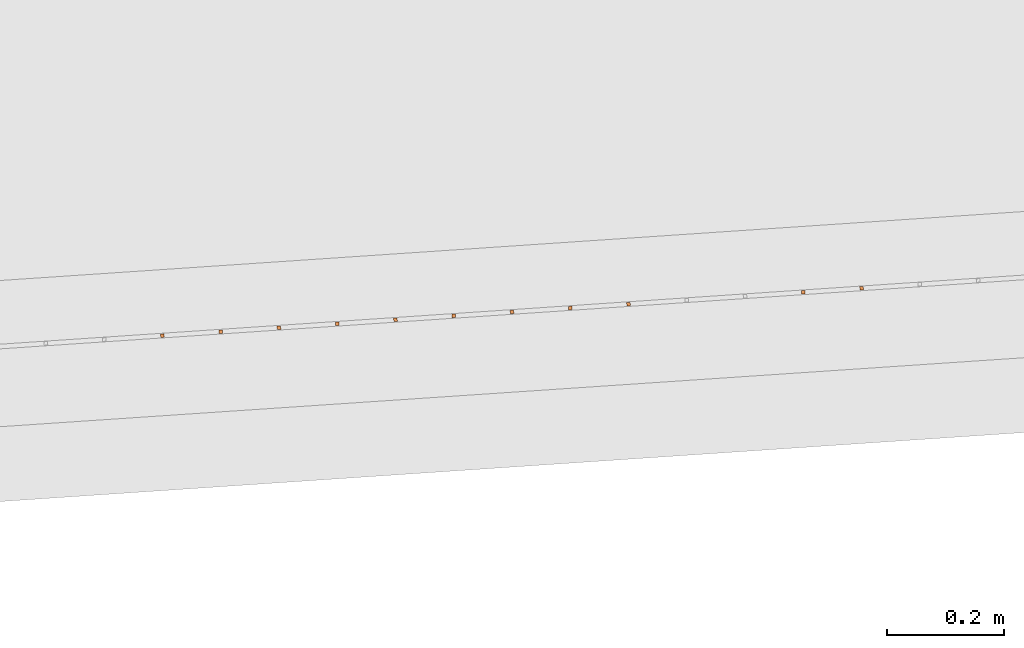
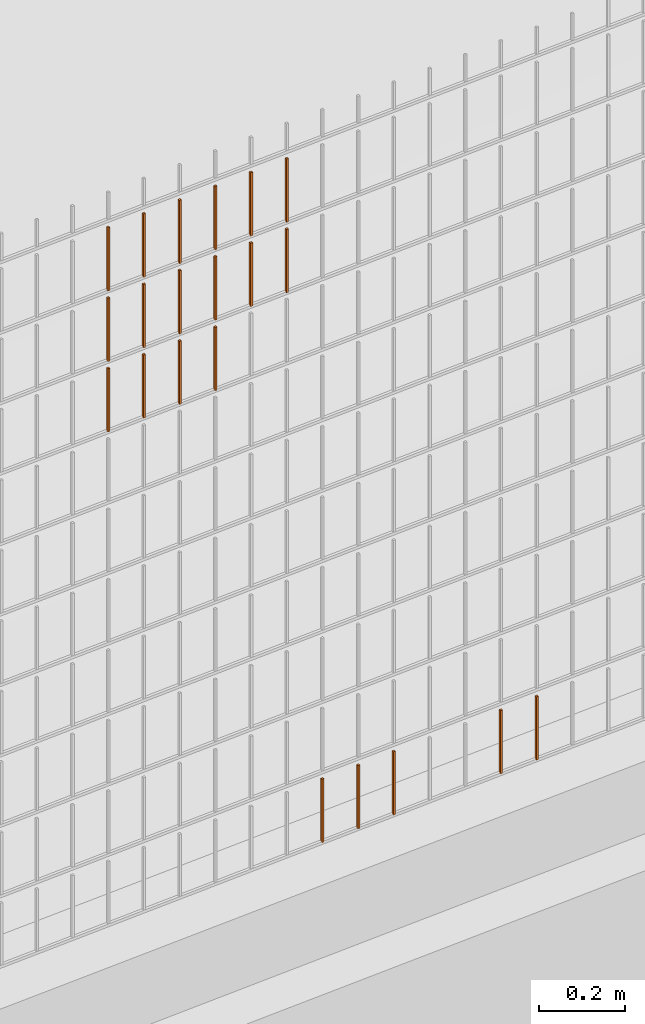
# One storey, part 164 of 1809: 21 proxies, 1 element without a shape of its own.
"""IFC2X3 building model written with IfcOpenShell, lengths in millimetres."""

from ifc_helpers import new_model, entity, si_unit, converted_unit, derived_unit, money_unit, direction, frame, origin_with_axes, place, context, subcontext, project, spatial, faceted_brep, source, transform, mapped, material, type_object, element, aggregate, save


model = new_model("IFC2X3")

# Units and contexts
model_context = context("Model", 3, precision=0.01, world=origin_with_axes(), true_north=direction((0.0, 1.0)))
body_context = subcontext(model_context, "Body", "Model", "MODEL_VIEW")
ifc_project = project(units=[si_unit("LENGTHUNIT", "METRE", prefix="MILLI"), si_unit("AREAUNIT", "SQUARE_METRE"), si_unit("VOLUMEUNIT", "CUBIC_METRE"), converted_unit("PLANEANGLEUNIT", "DEGREE", entity("IfcPlaneAngleMeasure", 0.0174532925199), si_unit("PLANEANGLEUNIT", "RADIAN"), dimensions=[0, 0, 0, 0, 0, 0, 0]), si_unit("SOLIDANGLEUNIT", "STERADIAN"), money_unit("EUR"), converted_unit("TIMEUNIT", "Year", entity("IfcTimeMeasure", 31556926.0), si_unit("TIMEUNIT", "SECOND"), dimensions=[0, 0, 1, 0, 0, 0, 0]), si_unit("MASSUNIT", "GRAM", prefix="KILO"), si_unit("THERMODYNAMICTEMPERATUREUNIT", "DEGREE_CELSIUS"), si_unit("LUMINOUSINTENSITYUNIT", "LUMEN"), si_unit("ENERGYUNIT", "JOULE", prefix="MEGA"), derived_unit("THERMALCONDUCTANCEUNIT", [(si_unit("POWERUNIT", "WATT"), 1), (si_unit("LENGTHUNIT", "METRE"), -1), (si_unit("THERMODYNAMICTEMPERATUREUNIT", "KELVIN"), -1)]), derived_unit("SPECIFICHEATCAPACITYUNIT", [(si_unit("ENERGYUNIT", "JOULE"), 1), (si_unit("MASSUNIT", "GRAM", prefix="KILO"), -1), (si_unit("THERMODYNAMICTEMPERATUREUNIT", "KELVIN"), -1)]), derived_unit("MASSDENSITYUNIT", [(si_unit("MASSUNIT", "GRAM", prefix="KILO"), 1), (si_unit("VOLUMEUNIT", "CUBIC_METRE"), -1)])], contexts=[model_context])

# Site, building, storey
site_placement = place(None, origin_with_axes())
site = spatial("IfcSite", under=ifc_project, at=site_placement, Name="Politse- ja Piirivalveameti ning Päästeameti ühishoone", CompositionType="ELEMENT")
building_placement = place(site_placement, origin_with_axes())
building = spatial("IfcBuilding", under=site, at=building_placement, Name="Politse- ja Piirivalveameti ning Päästeameti ühishoone", CompositionType="ELEMENT")
storey_placement = place(building_placement, origin_with_axes())
storey = spatial("IfcBuildingStorey", under=building, at=storey_placement, Name="Esimene korrus", CompositionType="ELEMENT", Elevation=0.0)

# Proxies
building_element_proxy_type_1 = type_object("IfcBuildingElementProxyType", Name="Railing Type", PredefinedType="NOTDEFINED")
proxy_1_placement = place(storey_placement, frame((89252.001212, -29183.4766571, 203.661247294), z_axis=(0.0, 0.0, 1.0), x_axis=(1.0, 0.0, 0.0)))
proxy_1 = element("IfcBuildingElementProxy", 1, at=proxy_1_placement, inside=storey, type_object=building_element_proxy_type_1, Name="PIIRDEAED")
ifc_material = material(Name="ET-03_Raud")
building_element_proxy_type_2 = type_object("IfcBuildingElementProxyType", Name="IfcBuildingElementProxy", PredefinedType="NOTDEFINED")
shared_shape_1 = source(origin_with_axes(), body_context, "Body", "Brep", [
    faceted_brep([(3.0, 3.0, -0.000752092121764), (-3.0, 3.0, -0.000752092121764), (-3.0, 3.0, 179.99926046), (3.0, 3.0, 179.99926046), (3.0, -3.0, 0.000752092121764), (-3.0, -3.0, 0.000752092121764), (-3.0, -3.0, 180.000764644), (3.0, -3.0, 180.000764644)], [[[0, 1, 2, 3]], [[0, 4, 5, 1]], [[1, 5, 6, 2]], [[3, 2, 6, 7]], [[4, 0, 3, 7]], [[5, 4, 7, 6]]]),
])
proxy_2_placement = place(proxy_1_placement, frame((-78348.1599185, -22589.8972888, 1607.54795105), z_axis=(0.0, 0.0, 1.0), x_axis=(1.0, 0.0, 0.0)))
proxy_2 = element("IfcBuildingElementProxy", 2, at=proxy_2_placement, type_object=building_element_proxy_type_2, material=ifc_material, Name="BALUSTER - 001", context=body_context, shape_type="MappedRepresentation", body=[
    mapped(shared_shape_1, transform((0.0, 0.0, 0.0), x_axis=(-0.0673926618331, 0.997726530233, 0.0), y_axis=(-0.997726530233, -0.0673926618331, 0.0), z_axis=(0.0, 0.0, 1.0))),
])
shared_shape_2 = source(origin_with_axes(), body_context, "Body", "Brep", [
    faceted_brep([(3.0, 3.0, -0.000752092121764), (-3.0, 3.0, -0.000752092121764), (-3.0, 3.0, 179.99926046), (3.0, 3.0, 179.99926046), (3.0, -3.0, 0.000752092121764), (-3.0, -3.0, 0.000752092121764), (-3.0, -3.0, 180.000764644), (3.0, -3.0, 180.000764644)], [[[0, 1, 2, 3]], [[0, 4, 5, 1]], [[1, 5, 6, 2]], [[3, 2, 6, 7]], [[4, 0, 3, 7]], [[5, 4, 7, 6]]]),
])
proxy_3_placement = place(proxy_1_placement, frame((-78348.1599185, -22589.8972888, 1807.54795105), z_axis=(0.0, 0.0, 1.0), x_axis=(1.0, 0.0, 0.0)))
proxy_3 = element("IfcBuildingElementProxy", 3, at=proxy_3_placement, type_object=building_element_proxy_type_2, material=ifc_material, Name="BALUSTER - 001", context=body_context, shape_type="MappedRepresentation", body=[
    mapped(shared_shape_2, transform((0.0, 0.0, 0.0), x_axis=(-0.0673926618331, 0.997726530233, 0.0), y_axis=(-0.997726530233, -0.0673926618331, 0.0), z_axis=(0.0, 0.0, 1.0))),
])
proxy_4_placement = place(proxy_1_placement, frame((-78547.7052245, -22603.3758212, 1807.49781158), z_axis=(0.0, 0.0, 1.0), x_axis=(1.0, 0.0, 0.0)))
proxy_4 = element("IfcBuildingElementProxy", 4, at=proxy_4_placement, type_object=building_element_proxy_type_2, material=ifc_material, Name="BALUSTER - 001", context=body_context, shape_type="MappedRepresentation", body=[
    mapped(shared_shape_2, transform((0.0, 0.0, 0.0), x_axis=(-0.0673926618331, 0.997726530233, 0.0), y_axis=(-0.997726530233, -0.0673926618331, 0.0), z_axis=(0.0, 0.0, 1.0))),
])
shared_shape_3 = source(origin_with_axes(), body_context, "Body", "Brep", [
    faceted_brep([(3.0, 3.0, -0.000752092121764), (-3.0, 3.0, -0.000752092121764), (-3.0, 3.0, 179.99926046), (3.0, 3.0, 179.99926046), (3.0, -3.0, 0.000752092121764), (-3.0, -3.0, 0.000752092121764), (-3.0, -3.0, 180.000764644), (3.0, -3.0, 180.000764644)], [[[0, 1, 2, 3]], [[0, 4, 5, 1]], [[1, 5, 6, 2]], [[3, 2, 6, 7]], [[4, 0, 3, 7]], [[5, 4, 7, 6]]]),
])
proxy_5_placement = place(proxy_1_placement, frame((-78447.9325715, -22596.636555, 1807.52288132), z_axis=(0.0, 0.0, 1.0), x_axis=(1.0, 0.0, 0.0)))
proxy_5 = element("IfcBuildingElementProxy", 5, at=proxy_5_placement, type_object=building_element_proxy_type_2, material=ifc_material, Name="BALUSTER - 001", context=body_context, shape_type="MappedRepresentation", body=[
    mapped(shared_shape_3, transform((0.0, 0.0, 0.0), x_axis=(-0.0673926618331, 0.997726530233, 0.0), y_axis=(-0.997726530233, -0.0673926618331, 0.0), z_axis=(0.0, 0.0, 1.0))),
])
shared_shape_4 = source(origin_with_axes(), body_context, "Body", "Brep", [
    faceted_brep([(3.0, 3.0, -0.000752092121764), (-3.0, 3.0, -0.000752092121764), (-3.0, 3.0, 179.99926046), (3.0, 3.0, 179.99926046), (3.0, -3.0, 0.000752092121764), (-3.0, -3.0, 0.000752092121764), (-3.0, -3.0, 180.000764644), (3.0, -3.0, 180.000764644)], [[[0, 1, 2, 3]], [[0, 4, 5, 1]], [[1, 5, 6, 2]], [[3, 2, 6, 7]], [[4, 0, 3, 7]], [[5, 4, 7, 6]]]),
])
proxy_6_placement = place(proxy_1_placement, frame((-77649.7513473, -22542.7224255, 7.72343921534), z_axis=(0.0, 0.0, 1.0), x_axis=(1.0, 0.0, 0.0)))
proxy_6 = element("IfcBuildingElementProxy", 6, at=proxy_6_placement, type_object=building_element_proxy_type_2, material=ifc_material, Name="BALUSTER - 001", context=body_context, shape_type="MappedRepresentation", body=[
    mapped(shared_shape_4, transform((0.0, 0.0, 0.0), x_axis=(-0.0673926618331, 0.997726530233, 0.0), y_axis=(-0.997726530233, -0.0673926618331, 0.0), z_axis=(0.0, 0.0, 1.0))),
])
shared_shape_5 = source(origin_with_axes(), body_context, "Body", "Brep", [
    faceted_brep([(3.0, 3.0, -0.000752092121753), (-3.0, 3.0, -0.000752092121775), (-3.0, 3.0, 179.99926046), (3.0, 3.0, 179.99926046), (3.0, -3.0, 0.000752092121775), (-3.0, -3.0, 0.000752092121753), (-3.0, -3.0, 180.000764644), (3.0, -3.0, 180.000764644)], [[[0, 1, 2, 3]], [[0, 4, 5, 1]], [[1, 5, 6, 2]], [[3, 2, 6, 7]], [[4, 0, 3, 7]], [[5, 4, 7, 6]]]),
])
proxy_7_placement = place(proxy_1_placement, frame((-77549.9786943, -22535.9831593, 7.74850895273), z_axis=(0.0, 0.0, 1.0), x_axis=(1.0, 0.0, 0.0)))
proxy_7 = element("IfcBuildingElementProxy", 7, at=proxy_7_placement, type_object=building_element_proxy_type_2, material=ifc_material, Name="BALUSTER - 001", context=body_context, shape_type="MappedRepresentation", body=[
    mapped(shared_shape_5, transform((0.0, 0.0, 0.0), x_axis=(-0.0673926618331, 0.997726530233, 0.0), y_axis=(-0.997726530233, -0.0673926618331, 0.0), z_axis=(0.0, 0.0, 1.0))),
])
proxy_8_placement = place(proxy_1_placement, frame((-78148.6146124, -22576.4187564, 7.59809052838), z_axis=(0.0, 0.0, 1.0), x_axis=(1.0, 0.0, 0.0)))
proxy_8 = element("IfcBuildingElementProxy", 8, at=proxy_8_placement, type_object=building_element_proxy_type_2, material=ifc_material, Name="BALUSTER - 001", context=body_context, shape_type="MappedRepresentation", body=[
    mapped(shared_shape_5, transform((0.0, 0.0, 0.0), x_axis=(-0.0673926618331, 0.997726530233, 0.0), y_axis=(-0.997726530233, -0.0673926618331, 0.0), z_axis=(0.0, 0.0, 1.0))),
])
shared_shape_6 = source(origin_with_axes(), body_context, "Body", "Brep", [
    faceted_brep([(3.0, 3.0, -0.000752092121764), (-3.0, 3.0, -0.000752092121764), (-3.0, 3.0, 179.99926046), (3.0, 3.0, 179.99926046), (3.0, -3.0, 0.000752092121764), (-3.0, -3.0, 0.000752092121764), (-3.0, -3.0, 180.000764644), (3.0, -3.0, 180.000764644)], [[[0, 1, 2, 3]], [[0, 4, 5, 1]], [[1, 5, 6, 2]], [[3, 2, 6, 7]], [[4, 0, 3, 7]], [[5, 4, 7, 6]]]),
])
proxy_9_placement = place(proxy_1_placement, frame((-78547.7052245, -22603.3758212, 1407.49781158), z_axis=(0.0, 0.0, 1.0), x_axis=(1.0, 0.0, 0.0)))
proxy_9 = element("IfcBuildingElementProxy", 9, at=proxy_9_placement, type_object=building_element_proxy_type_2, material=ifc_material, Name="BALUSTER - 001", context=body_context, shape_type="MappedRepresentation", body=[
    mapped(shared_shape_6, transform((0.0, 0.0, 0.0), x_axis=(-0.0673926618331, 0.997726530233, 0.0), y_axis=(-0.997726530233, -0.0673926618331, 0.0), z_axis=(0.0, 0.0, 1.0))),
])
proxy_10_placement = place(proxy_1_placement, frame((-78547.7052245, -22603.3758212, 1607.49781158), z_axis=(0.0, 0.0, 1.0), x_axis=(1.0, 0.0, 0.0)))
proxy_10 = element("IfcBuildingElementProxy", 10, at=proxy_10_placement, type_object=building_element_proxy_type_2, material=ifc_material, Name="BALUSTER - 001", context=body_context, shape_type="MappedRepresentation", body=[
    mapped(shared_shape_6, transform((0.0, 0.0, 0.0), x_axis=(-0.0673926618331, 0.997726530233, 0.0), y_axis=(-0.997726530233, -0.0673926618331, 0.0), z_axis=(0.0, 0.0, 1.0))),
])
shared_shape_7 = source(origin_with_axes(), body_context, "Body", "Brep", [
    faceted_brep([(3.0, 3.0, -0.000752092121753), (-3.0, 3.0, -0.000752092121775), (-3.0, 3.0, 179.99926046), (3.0, 3.0, 179.99926046), (3.0, -3.0, 0.000752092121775), (-3.0, -3.0, 0.000752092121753), (-3.0, -3.0, 180.000764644), (3.0, -3.0, 180.000764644)], [[[0, 1, 2, 3]], [[0, 4, 5, 1]], [[1, 5, 6, 2]], [[3, 2, 6, 7]], [[4, 0, 3, 7]], [[5, 4, 7, 6]]]),
])
proxy_11_placement = place(proxy_1_placement, frame((-78747.2505306, -22616.8543535, 1407.4476721), z_axis=(0.0, 0.0, 1.0), x_axis=(1.0, 0.0, 0.0)))
proxy_11 = element("IfcBuildingElementProxy", 11, at=proxy_11_placement, type_object=building_element_proxy_type_2, material=ifc_material, Name="BALUSTER - 001", context=body_context, shape_type="MappedRepresentation", body=[
    mapped(shared_shape_7, transform((0.0, 0.0, 0.0), x_axis=(-0.0673926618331, 0.997726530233, 0.0), y_axis=(-0.997726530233, -0.0673926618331, 0.0), z_axis=(0.0, 0.0, 1.0))),
])
proxy_12_placement = place(proxy_1_placement, frame((-78747.2505306, -22616.8543535, 1607.4476721), z_axis=(0.0, 0.0, 1.0), x_axis=(1.0, 0.0, 0.0)))
proxy_12 = element("IfcBuildingElementProxy", 12, at=proxy_12_placement, type_object=building_element_proxy_type_2, material=ifc_material, Name="BALUSTER - 001", context=body_context, shape_type="MappedRepresentation", body=[
    mapped(shared_shape_7, transform((0.0, 0.0, 0.0), x_axis=(-0.0673926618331, 0.997726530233, 0.0), y_axis=(-0.997726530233, -0.0673926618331, 0.0), z_axis=(0.0, 0.0, 1.0))),
])
shared_shape_8 = source(origin_with_axes(), body_context, "Body", "Brep", [
    faceted_brep([(3.0, 3.0, -0.000752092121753), (-3.0, 3.0, -0.000752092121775), (-3.0, 3.0, 179.99926046), (3.0, 3.0, 179.99926046), (3.0, -3.0, 0.000752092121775), (-3.0, -3.0, 0.000752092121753), (-3.0, -3.0, 180.000764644), (3.0, -3.0, 180.000764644)], [[[0, 1, 2, 3]], [[0, 4, 5, 1]], [[1, 5, 6, 2]], [[3, 2, 6, 7]], [[4, 0, 3, 7]], [[5, 4, 7, 6]]]),
])
proxy_13_placement = place(proxy_1_placement, frame((-78747.2505306, -22616.8543535, 1807.4476721), z_axis=(0.0, 0.0, 1.0), x_axis=(1.0, 0.0, 0.0)))
proxy_13 = element("IfcBuildingElementProxy", 13, at=proxy_13_placement, type_object=building_element_proxy_type_2, material=ifc_material, Name="BALUSTER - 001", context=body_context, shape_type="MappedRepresentation", body=[
    mapped(shared_shape_8, transform((0.0, 0.0, 0.0), x_axis=(-0.0673926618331, 0.997726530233, 0.0), y_axis=(-0.997726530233, -0.0673926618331, 0.0), z_axis=(0.0, 0.0, 1.0))),
])
shared_shape_9 = source(origin_with_axes(), body_context, "Body", "Brep", [
    faceted_brep([(3.0, 3.0, -0.000752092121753), (-3.0, 3.0, -0.000752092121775), (-3.0, 3.0, 179.99926046), (3.0, 3.0, 179.99926046), (3.0, -3.0, 0.000752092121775), (-3.0, -3.0, 0.000752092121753), (-3.0, -3.0, 180.000764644), (3.0, -3.0, 180.000764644)], [[[0, 1, 2, 3]], [[0, 4, 5, 1]], [[1, 5, 6, 2]], [[3, 2, 6, 7]], [[4, 0, 3, 7]], [[5, 4, 7, 6]]]),
])
proxy_14_placement = place(proxy_1_placement, frame((-78248.3872655, -22583.1580226, 1607.57302079), z_axis=(0.0, 0.0, 1.0), x_axis=(1.0, 0.0, 0.0)))
proxy_14 = element("IfcBuildingElementProxy", 14, at=proxy_14_placement, type_object=building_element_proxy_type_2, material=ifc_material, Name="BALUSTER - 001", context=body_context, shape_type="MappedRepresentation", body=[
    mapped(shared_shape_9, transform((0.0, 0.0, 0.0), x_axis=(-0.0673926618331, 0.997726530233, 0.0), y_axis=(-0.997726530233, -0.0673926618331, 0.0), z_axis=(0.0, 0.0, 1.0))),
])
shared_shape_10 = source(origin_with_axes(), body_context, "Body", "Brep", [
    faceted_brep([(3.0, 3.0, -0.000752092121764), (-3.0, 3.0, -0.000752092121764), (-3.0, 3.0, 179.99926046), (3.0, 3.0, 179.99926046), (3.0, -3.0, 0.000752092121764), (-3.0, -3.0, 0.000752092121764), (-3.0, -3.0, 180.000764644), (3.0, -3.0, 180.000764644)], [[[0, 1, 2, 3]], [[0, 4, 5, 1]], [[1, 5, 6, 2]], [[3, 2, 6, 7]], [[4, 0, 3, 7]], [[5, 4, 7, 6]]]),
])
proxy_15_placement = place(proxy_1_placement, frame((-78447.9325715, -22596.636555, 1407.52288132), z_axis=(0.0, 0.0, 1.0), x_axis=(1.0, 0.0, 0.0)))
proxy_15 = element("IfcBuildingElementProxy", 15, at=proxy_15_placement, type_object=building_element_proxy_type_2, material=ifc_material, Name="BALUSTER - 001", context=body_context, shape_type="MappedRepresentation", body=[
    mapped(shared_shape_10, transform((0.0, 0.0, 0.0), x_axis=(-0.0673926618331, 0.997726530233, 0.0), y_axis=(-0.997726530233, -0.0673926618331, 0.0), z_axis=(0.0, 0.0, 1.0))),
])
proxy_16_placement = place(proxy_1_placement, frame((-78447.9325715, -22596.636555, 1607.52288132), z_axis=(0.0, 0.0, 1.0), x_axis=(1.0, 0.0, 0.0)))
proxy_16 = element("IfcBuildingElementProxy", 16, at=proxy_16_placement, type_object=building_element_proxy_type_2, material=ifc_material, Name="BALUSTER - 001", context=body_context, shape_type="MappedRepresentation", body=[
    mapped(shared_shape_10, transform((0.0, 0.0, 0.0), x_axis=(-0.0673926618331, 0.997726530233, 0.0), y_axis=(-0.997726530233, -0.0673926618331, 0.0), z_axis=(0.0, 0.0, 1.0))),
])
shared_shape_11 = source(origin_with_axes(), body_context, "Body", "Brep", [
    faceted_brep([(3.0, 3.0, -0.000752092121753), (-3.0, 3.0, -0.000752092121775), (-3.0, 3.0, 179.99926046), (3.0, 3.0, 179.99926046), (3.0, -3.0, 0.000752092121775), (-3.0, -3.0, 0.000752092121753), (-3.0, -3.0, 180.000764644), (3.0, -3.0, 180.000764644)], [[[0, 1, 2, 3]], [[0, 4, 5, 1]], [[1, 5, 6, 2]], [[3, 2, 6, 7]], [[4, 0, 3, 7]], [[5, 4, 7, 6]]]),
])
proxy_17_placement = place(proxy_1_placement, frame((-78248.3872655, -22583.1580226, 1807.57302079), z_axis=(0.0, 0.0, 1.0), x_axis=(1.0, 0.0, 0.0)))
proxy_17 = element("IfcBuildingElementProxy", 17, at=proxy_17_placement, type_object=building_element_proxy_type_2, material=ifc_material, Name="BALUSTER - 001", context=body_context, shape_type="MappedRepresentation", body=[
    mapped(shared_shape_11, transform((0.0, 0.0, 0.0), x_axis=(-0.0673926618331, 0.997726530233, 0.0), y_axis=(-0.997726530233, -0.0673926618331, 0.0), z_axis=(0.0, 0.0, 1.0))),
])
shared_shape_12 = source(origin_with_axes(), body_context, "Body", "Brep", [
    faceted_brep([(3.0, 3.0, -0.000752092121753), (-3.0, 3.0, -0.000752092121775), (-3.0, 3.0, 179.99926046), (3.0, 3.0, 179.99926046), (3.0, -3.0, 0.000752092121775), (-3.0, -3.0, 0.000752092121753), (-3.0, -3.0, 180.000764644), (3.0, -3.0, 180.000764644)], [[[0, 1, 2, 3]], [[0, 4, 5, 1]], [[1, 5, 6, 2]], [[3, 2, 6, 7]], [[4, 0, 3, 7]], [[5, 4, 7, 6]]]),
])
proxy_18_placement = place(proxy_1_placement, frame((-78048.8419594, -22569.6794903, 7.62316026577), z_axis=(0.0, 0.0, 1.0), x_axis=(1.0, 0.0, 0.0)))
proxy_18 = element("IfcBuildingElementProxy", 18, at=proxy_18_placement, type_object=building_element_proxy_type_2, material=ifc_material, Name="BALUSTER - 001", context=body_context, shape_type="MappedRepresentation", body=[
    mapped(shared_shape_12, transform((0.0, 0.0, 0.0), x_axis=(-0.0673926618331, 0.997726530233, 0.0), y_axis=(-0.997726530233, -0.0673926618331, 0.0), z_axis=(0.0, 0.0, 1.0))),
])
shared_shape_13 = source(origin_with_axes(), body_context, "Body", "Brep", [
    faceted_brep([(3.0, 3.0, -0.000752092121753), (-3.0, 3.0, -0.000752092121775), (-3.0, 3.0, 179.99926046), (3.0, 3.0, 179.99926046), (3.0, -3.0, 0.000752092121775), (-3.0, -3.0, 0.000752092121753), (-3.0, -3.0, 180.000764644), (3.0, -3.0, 180.000764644)], [[[0, 1, 2, 3]], [[0, 4, 5, 1]], [[1, 5, 6, 2]], [[3, 2, 6, 7]], [[4, 0, 3, 7]], [[5, 4, 7, 6]]]),
])
proxy_19_placement = place(proxy_1_placement, frame((-77949.0693064, -22562.9402241, 7.64823000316), z_axis=(0.0, 0.0, 1.0), x_axis=(1.0, 0.0, 0.0)))
proxy_19 = element("IfcBuildingElementProxy", 19, at=proxy_19_placement, type_object=building_element_proxy_type_2, material=ifc_material, Name="BALUSTER - 001", context=body_context, shape_type="MappedRepresentation", body=[
    mapped(shared_shape_13, transform((0.0, 0.0, 0.0), x_axis=(-0.0673926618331, 0.997726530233, 0.0), y_axis=(-0.997726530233, -0.0673926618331, 0.0), z_axis=(0.0, 0.0, 1.0))),
])
shared_shape_14 = source(origin_with_axes(), body_context, "Body", "Brep", [
    faceted_brep([(3.0, 3.0, -0.000752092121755), (-3.0, 3.0, -0.000752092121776), (-3.0, 3.0, 179.99926046), (3.0, 3.0, 179.99926046), (3.0, -3.0, 0.000752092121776), (-3.0, -3.0, 0.000752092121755), (-3.0, -3.0, 180.000764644), (3.0, -3.0, 180.000764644)], [[[0, 1, 2, 3]], [[0, 4, 5, 1]], [[1, 5, 6, 2]], [[3, 2, 6, 7]], [[4, 0, 3, 7]], [[5, 4, 7, 6]]]),
])
proxy_20_placement = place(proxy_1_placement, frame((-78647.4778776, -22610.1150874, 1407.47274184), z_axis=(0.0, 0.0, 1.0), x_axis=(1.0, 0.0, 0.0)))
proxy_20 = element("IfcBuildingElementProxy", 20, at=proxy_20_placement, type_object=building_element_proxy_type_2, material=ifc_material, Name="BALUSTER - 001", context=body_context, shape_type="MappedRepresentation", body=[
    mapped(shared_shape_14, transform((0.0, 0.0, 0.0), x_axis=(-0.0673926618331, 0.997726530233, 0.0), y_axis=(-0.997726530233, -0.0673926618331, 0.0), z_axis=(0.0, 0.0, 1.0))),
])
proxy_21_placement = place(proxy_1_placement, frame((-78647.4778776, -22610.1150874, 1607.47274184), z_axis=(0.0, 0.0, 1.0), x_axis=(1.0, 0.0, 0.0)))
proxy_21 = element("IfcBuildingElementProxy", 21, at=proxy_21_placement, type_object=building_element_proxy_type_2, material=ifc_material, Name="BALUSTER - 001", context=body_context, shape_type="MappedRepresentation", body=[
    mapped(shared_shape_14, transform((0.0, 0.0, 0.0), x_axis=(-0.0673926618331, 0.997726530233, 0.0), y_axis=(-0.997726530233, -0.0673926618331, 0.0), z_axis=(0.0, 0.0, 1.0))),
])
shared_shape_15 = source(origin_with_axes(), body_context, "Body", "Brep", [
    faceted_brep([(3.0, 3.0, -0.000752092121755), (-3.0, 3.0, -0.000752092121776), (-3.0, 3.0, 179.99926046), (3.0, 3.0, 179.99926046), (3.0, -3.0, 0.000752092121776), (-3.0, -3.0, 0.000752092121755), (-3.0, -3.0, 180.000764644), (3.0, -3.0, 180.000764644)], [[[0, 1, 2, 3]], [[0, 4, 5, 1]], [[1, 5, 6, 2]], [[3, 2, 6, 7]], [[4, 0, 3, 7]], [[5, 4, 7, 6]]]),
])
proxy_22_placement = place(proxy_1_placement, frame((-78647.4778776, -22610.1150874, 1807.47274184), z_axis=(0.0, 0.0, 1.0), x_axis=(1.0, 0.0, 0.0)))
proxy_22 = element("IfcBuildingElementProxy", 22, at=proxy_22_placement, type_object=building_element_proxy_type_2, material=ifc_material, Name="BALUSTER - 001", context=body_context, shape_type="MappedRepresentation", body=[
    mapped(shared_shape_15, transform((0.0, 0.0, 0.0), x_axis=(-0.0673926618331, 0.997726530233, 0.0), y_axis=(-0.997726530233, -0.0673926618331, 0.0), z_axis=(0.0, 0.0, 1.0))),
])
aggregate(proxy_1, [proxy_7, proxy_6, proxy_19, proxy_18, proxy_8, proxy_15, proxy_9, proxy_20, proxy_11, proxy_14, proxy_2, proxy_16, proxy_10, proxy_21, proxy_12, proxy_17, proxy_3, proxy_5, proxy_4, proxy_22, proxy_13])

save(model, "model.ifc")
